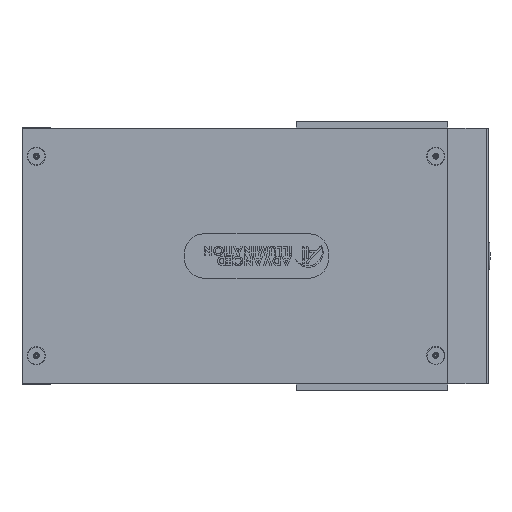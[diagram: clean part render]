
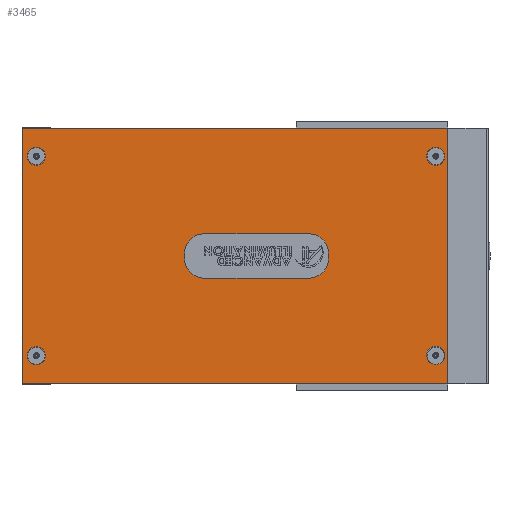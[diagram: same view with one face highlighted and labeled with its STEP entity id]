
A CAD part, left-side view. The second image highlights one B-rep face of the part: STEP entity #3465.
In plain terms, the highlighted planar face has unit normal (-1, 0, 0) as drawn and (0, 0, 1) by its records, which use the part's own axes.
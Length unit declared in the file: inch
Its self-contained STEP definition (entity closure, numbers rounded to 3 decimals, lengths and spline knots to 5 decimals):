
#295 = LINE ( 'NONE', #63376, #65710 ) ;
#497 = EDGE_CURVE ( 'NONE', #31385, #5483, #21132, .T. ) ;
#2604 = DIRECTION ( 'NONE',  ( 1., 0., 0. ) ) ;
#3465 = ADVANCED_FACE ( 'NONE', ( #4558, #16783, #55242, #4640, #12774 ), #38163, .F. ) ;
#4064 = CARTESIAN_POINT ( 'NONE',  ( 0.8345, 2.968, 0.125 ) ) ;
#4128 = CIRCLE ( 'NONE', #36612, 0.1125 ) ;
#4558 = FACE_BOUND ( 'NONE', #9896, .T. ) ;
#4640 = FACE_BOUND ( 'NONE', #59592, .T. ) ;
#5073 = VERTEX_POINT ( 'NONE', #38673 ) ;
#5236 = ORIENTED_EDGE ( 'NONE', *, *, #35491, .F. ) ;
#5483 = VERTEX_POINT ( 'NONE', #52808 ) ;
#6045 = DIRECTION ( 'NONE',  ( 0., -1., 0. ) ) ;
#6334 = VECTOR ( 'NONE', #64880, 39.37008 ) ;
#6344 = ORIENTED_EDGE ( 'NONE', *, *, #19871, .F. ) ;
#7287 = AXIS2_PLACEMENT_3D ( 'NONE', #15688, #10670, #52257 ) ;
#9016 = EDGE_CURVE ( 'NONE', #5483, #15785, #295, .T. ) ;
#9896 = EDGE_LOOP ( 'NONE', ( #26635, #23989 ) ) ;
#10138 = VERTEX_POINT ( 'NONE', #15915 ) ;
#10670 = DIRECTION ( 'NONE',  ( 0., 0., 1. ) ) ;
#12445 = EDGE_CURVE ( 'NONE', #10138, #24606, #54520, .T. ) ;
#12774 = FACE_OUTER_BOUND ( 'NONE', #26419, .T. ) ;
#12967 = CARTESIAN_POINT ( 'NONE',  ( 0., 3.335, 0.125 ) ) ;
#13670 = CARTESIAN_POINT ( 'NONE',  ( 5.927, 2.968, 0.125 ) ) ;
#13881 = CARTESIAN_POINT ( 'NONE',  ( 5.927, 0.368, 0.125 ) ) ;
#14263 = CARTESIAN_POINT ( 'NONE',  ( 0.722, 0.368, 0.125 ) ) ;
#14371 = AXIS2_PLACEMENT_3D ( 'NONE', #13881, #50436, #19096 ) ;
#14711 = DIRECTION ( 'NONE',  ( 0., 0., 1. ) ) ;
#15106 = ORIENTED_EDGE ( 'NONE', *, *, #27180, .F. ) ;
#15688 = CARTESIAN_POINT ( 'NONE',  ( 0.722, 0.368, 0.125 ) ) ;
#15785 = VERTEX_POINT ( 'NONE', #34333 ) ;
#15915 = CARTESIAN_POINT ( 'NONE',  ( 0.6095, 2.968, 0.125 ) ) ;
#16783 = FACE_BOUND ( 'NONE', #21604, .T. ) ;
#17077 = EDGE_CURVE ( 'NONE', #15785, #61874, #55367, .T. ) ;
#19096 = DIRECTION ( 'NONE',  ( 1., 0., 0. ) ) ;
#19487 = DIRECTION ( 'NONE',  ( 0., 0., 1. ) ) ;
#19871 = EDGE_CURVE ( 'NONE', #57092, #28070, #46065, .T. ) ;
#20154 = CARTESIAN_POINT ( 'NONE',  ( 6.114, 0., 0.125 ) ) ;
#21132 = LINE ( 'NONE', #12967, #33362 ) ;
#21264 = EDGE_CURVE ( 'NONE', #5073, #49494, #24650, .T. ) ;
#21604 = EDGE_LOOP ( 'NONE', ( #6344, #15106 ) ) ;
#23354 = DIRECTION ( 'NONE',  ( 0., 0., 1. ) ) ;
#23989 = ORIENTED_EDGE ( 'NONE', *, *, #12445, .F. ) ;
#24424 = VECTOR ( 'NONE', #56789, 39.37008 ) ;
#24606 = VERTEX_POINT ( 'NONE', #4064 ) ;
#24650 = CIRCLE ( 'NONE', #53000, 0.1125 ) ;
#24776 = CARTESIAN_POINT ( 'NONE',  ( 6.114, 0., 0.125 ) ) ;
#26171 = AXIS2_PLACEMENT_3D ( 'NONE', #13670, #60285, #29155 ) ;
#26419 = EDGE_LOOP ( 'NONE', ( #64803, #60889, #29235, #55174 ) ) ;
#26635 = ORIENTED_EDGE ( 'NONE', *, *, #41638, .F. ) ;
#26943 = DIRECTION ( 'NONE',  ( 1., 0., 0. ) ) ;
#27180 = EDGE_CURVE ( 'NONE', #28070, #57092, #54814, .T. ) ;
#27260 = CARTESIAN_POINT ( 'NONE',  ( 6.0395, 2.968, 0.125 ) ) ;
#27574 = ORIENTED_EDGE ( 'NONE', *, *, #28984, .F. ) ;
#28070 = VERTEX_POINT ( 'NONE', #39092 ) ;
#28418 = VERTEX_POINT ( 'NONE', #37167 ) ;
#28768 = DIRECTION ( 'NONE',  ( 0., 0., -1. ) ) ;
#28984 = EDGE_CURVE ( 'NONE', #49494, #5073, #54617, .T. ) ;
#29155 = DIRECTION ( 'NONE',  ( 1., 0., 0. ) ) ;
#29235 = ORIENTED_EDGE ( 'NONE', *, *, #17077, .T. ) ;
#31385 = VERTEX_POINT ( 'NONE', #46628 ) ;
#31518 = AXIS2_PLACEMENT_3D ( 'NONE', #47787, #58306, #26943 ) ;
#32280 = CIRCLE ( 'NONE', #7287, 0.1125 ) ;
#33362 = VECTOR ( 'NONE', #39915, 39.37008 ) ;
#33441 = CARTESIAN_POINT ( 'NONE',  ( 0., 0., 0.125 ) ) ;
#34333 = CARTESIAN_POINT ( 'NONE',  ( 0.565, 0., 0.125 ) ) ;
#35491 = EDGE_CURVE ( 'NONE', #28418, #54835, #32280, .T. ) ;
#36612 = AXIS2_PLACEMENT_3D ( 'NONE', #14263, #19487, #41426 ) ;
#37167 = CARTESIAN_POINT ( 'NONE',  ( 0.6095, 0.368, 0.125 ) ) ;
#38163 = PLANE ( 'NONE',  #67553 ) ;
#38673 = CARTESIAN_POINT ( 'NONE',  ( 5.8145, 0.368, 0.125 ) ) ;
#39092 = CARTESIAN_POINT ( 'NONE',  ( 5.8145, 2.968, 0.125 ) ) ;
#39915 = DIRECTION ( 'NONE',  ( -1., 0., 0. ) ) ;
#41151 = DIRECTION ( 'NONE',  ( 0., 0., 1. ) ) ;
#41426 = DIRECTION ( 'NONE',  ( 1., 0., 0. ) ) ;
#41638 = EDGE_CURVE ( 'NONE', #24606, #10138, #58558, .T. ) ;
#46065 = CIRCLE ( 'NONE', #64847, 0.1125 ) ;
#46181 = DIRECTION ( 'NONE',  ( 1., 0., 0. ) ) ;
#46463 = DIRECTION ( 'NONE',  ( 1., 0., 0. ) ) ;
#46628 = CARTESIAN_POINT ( 'NONE',  ( 6.114, 3.335, 0.125 ) ) ;
#47787 = CARTESIAN_POINT ( 'NONE',  ( 0.722, 2.968, 0.125 ) ) ;
#49494 = VERTEX_POINT ( 'NONE', #66598 ) ;
#49976 = AXIS2_PLACEMENT_3D ( 'NONE', #57404, #41151, #46181 ) ;
#50436 = DIRECTION ( 'NONE',  ( 0., 0., 1. ) ) ;
#52174 = CARTESIAN_POINT ( 'NONE',  ( 5.927, 0.368, 0.125 ) ) ;
#52257 = DIRECTION ( 'NONE',  ( 1., 0., 0. ) ) ;
#52808 = CARTESIAN_POINT ( 'NONE',  ( 0.565, 3.335, 0.125 ) ) ;
#53000 = AXIS2_PLACEMENT_3D ( 'NONE', #52174, #14711, #46463 ) ;
#54482 = CARTESIAN_POINT ( 'NONE',  ( 5.927, 2.968, 0.125 ) ) ;
#54520 = CIRCLE ( 'NONE', #49976, 0.1125 ) ;
#54617 = CIRCLE ( 'NONE', #14371, 0.1125 ) ;
#54692 = LINE ( 'NONE', #20154, #24424 ) ;
#54814 = CIRCLE ( 'NONE', #26171, 0.1125 ) ;
#54835 = VERTEX_POINT ( 'NONE', #62351 ) ;
#55174 = ORIENTED_EDGE ( 'NONE', *, *, #62137, .T. ) ;
#55242 = FACE_BOUND ( 'NONE', #67172, .T. ) ;
#55367 = LINE ( 'NONE', #33441, #6334 ) ;
#55776 = CARTESIAN_POINT ( 'NONE',  ( 0., 3.335, 0.125 ) ) ;
#56789 = DIRECTION ( 'NONE',  ( 0., 1., 0. ) ) ;
#57092 = VERTEX_POINT ( 'NONE', #27260 ) ;
#57404 = CARTESIAN_POINT ( 'NONE',  ( 0.722, 2.968, 0.125 ) ) ;
#57780 = ORIENTED_EDGE ( 'NONE', *, *, #21264, .F. ) ;
#58306 = DIRECTION ( 'NONE',  ( 0., 0., 1. ) ) ;
#58558 = CIRCLE ( 'NONE', #31518, 0.1125 ) ;
#59592 = EDGE_LOOP ( 'NONE', ( #27574, #57780 ) ) ;
#59939 = EDGE_CURVE ( 'NONE', #54835, #28418, #4128, .T. ) ;
#60285 = DIRECTION ( 'NONE',  ( 0., 0., 1. ) ) ;
#60889 = ORIENTED_EDGE ( 'NONE', *, *, #9016, .T. ) ;
#61874 = VERTEX_POINT ( 'NONE', #24776 ) ;
#62137 = EDGE_CURVE ( 'NONE', #61874, #31385, #54692, .T. ) ;
#62351 = CARTESIAN_POINT ( 'NONE',  ( 0.8345, 0.368, 0.125 ) ) ;
#63376 = CARTESIAN_POINT ( 'NONE',  ( 0.565, 3.335, 0.125 ) ) ;
#64803 = ORIENTED_EDGE ( 'NONE', *, *, #497, .T. ) ;
#64847 = AXIS2_PLACEMENT_3D ( 'NONE', #54482, #23354, #2604 ) ;
#64880 = DIRECTION ( 'NONE',  ( 1., 0., 0. ) ) ;
#65423 = DIRECTION ( 'NONE',  ( -1., 0., 0. ) ) ;
#65710 = VECTOR ( 'NONE', #6045, 39.37008 ) ;
#66598 = CARTESIAN_POINT ( 'NONE',  ( 6.0395, 0.368, 0.125 ) ) ;
#67172 = EDGE_LOOP ( 'NONE', ( #67629, #5236 ) ) ;
#67553 = AXIS2_PLACEMENT_3D ( 'NONE', #55776, #28768, #65423 ) ;
#67629 = ORIENTED_EDGE ( 'NONE', *, *, #59939, .F. ) ;
